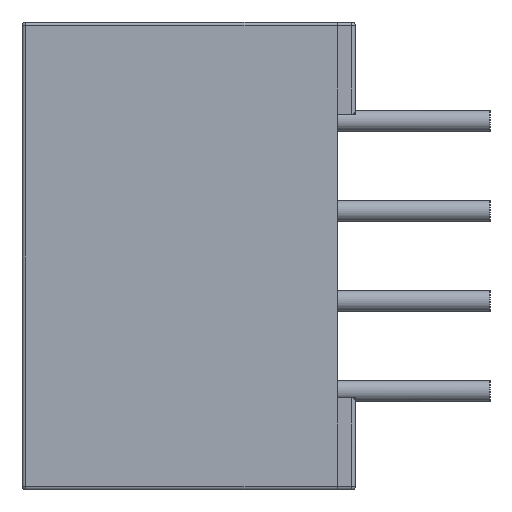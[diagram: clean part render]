
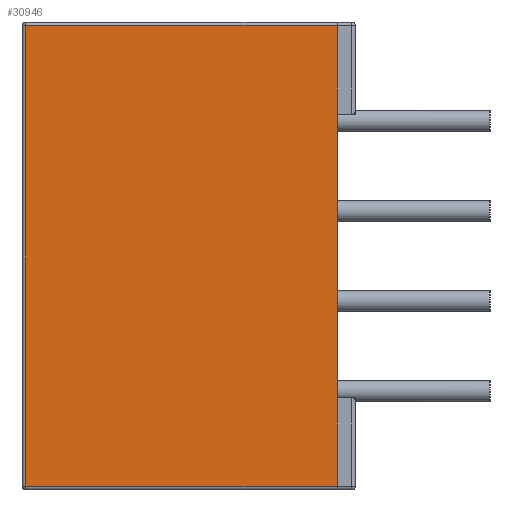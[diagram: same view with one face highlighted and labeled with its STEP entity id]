
A CAD part, left-side view. The second image highlights one B-rep face of the part: STEP entity #30946.
In plain terms, the highlighted planar face has unit normal (-1, 0, 0).
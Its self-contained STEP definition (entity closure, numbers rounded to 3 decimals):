
#19962 = CARTESIAN_POINT ( 'NONE',  ( -14.5, 0., 4. ) ) ;
#19998 = CARTESIAN_POINT ( 'NONE',  ( -14.5, 0., -4. ) ) ;
#19999 = DIRECTION ( 'NONE',  ( 0., 0., 1. ) ) ;
#20000 = VECTOR ( 'NONE', #19999, 1000. ) ;
#20001 = CARTESIAN_POINT ( 'NONE',  ( -14.5, 0., 6.6 ) ) ;
#20002 = LINE ( 'NONE', #20001, #20000 ) ;
#20435 = DIRECTION ( 'NONE',  ( 0., 1., 0. ) ) ;
#20436 = VECTOR ( 'NONE', #20435, 1000. ) ;
#20437 = CARTESIAN_POINT ( 'NONE',  ( -14.5, 0., 6.5 ) ) ;
#20438 = LINE ( 'NONE', #20437, #20436 ) ;
#20439 = CARTESIAN_POINT ( 'NONE',  ( -14.5, 0., 6.5 ) ) ;
#20440 = DIRECTION ( 'NONE',  ( 0., 0., 1. ) ) ;
#20441 = VECTOR ( 'NONE', #20440, 1000. ) ;
#20442 = CARTESIAN_POINT ( 'NONE',  ( -14.5, 0., 6.6 ) ) ;
#20443 = LINE ( 'NONE', #20442, #20441 ) ;
#20464 = DIRECTION ( 'NONE',  ( 0., 0., 1. ) ) ;
#20465 = VECTOR ( 'NONE', #20464, 1000. ) ;
#20466 = CARTESIAN_POINT ( 'NONE',  ( -14.5, 0., 6.6 ) ) ;
#20467 = LINE ( 'NONE', #20466, #20465 ) ;
#20468 = CARTESIAN_POINT ( 'NONE',  ( -14.5, 0., -6.5 ) ) ;
#20469 = DIRECTION ( 'NONE',  ( 0., -1., 0. ) ) ;
#20470 = VECTOR ( 'NONE', #20469, 1000. ) ;
#20471 = CARTESIAN_POINT ( 'NONE',  ( -14.5, 0.005, -6.5 ) ) ;
#20472 = LINE ( 'NONE', #20471, #20470 ) ;
#20473 = CARTESIAN_POINT ( 'NONE',  ( -14.497, 8.79, -6.497 ) ) ;
#20474 = CARTESIAN_POINT ( 'NONE',  ( -14.497, 8.79, 6.497 ) ) ;
#20475 = DIRECTION ( 'NONE',  ( 0., 0., -1. ) ) ;
#20476 = VECTOR ( 'NONE', #20475, 1000. ) ;
#20477 = CARTESIAN_POINT ( 'NONE',  ( -14.497, 8.79, -6.597 ) ) ;
#20478 = LINE ( 'NONE', #20477, #20476 ) ;
#20479 = DIRECTION ( 'NONE',  ( 0., -1., 0. ) ) ;
#20480 = DIRECTION ( 'NONE',  ( -1., 0., 0. ) ) ;
#20481 = CARTESIAN_POINT ( 'NONE',  ( -14.5, 0., 6.6 ) ) ;
#20482 = AXIS2_PLACEMENT_3D ( 'NONE', #20481, #20480, #20479 ) ;
#20484 = PLANE ( 'NONE',  #20482 ) ;
#20485 = FACE_OUTER_BOUND ( 'NONE', #30947, .T. ) ;
#30667 = VERTEX_POINT ( 'NONE', #19962 ) ;
#30712 = EDGE_CURVE ( 'NONE', #30713, #30667, #20002, .T. ) ;
#30713 = VERTEX_POINT ( 'NONE', #19998 ) ;
#30930 = ORIENTED_EDGE ( 'NONE', *, *, #30931, .T. ) ;
#30931 = EDGE_CURVE ( 'NONE', #30667, #30932, #20443, .T. ) ;
#30932 = VERTEX_POINT ( 'NONE', #20439 ) ;
#30933 = ORIENTED_EDGE ( 'NONE', *, *, #30934, .T. ) ;
#30934 = EDGE_CURVE ( 'NONE', #30932, #30950, #20438, .T. ) ;
#30946 = ADVANCED_FACE ( 'NONE', ( #20485 ), #20484, .T. ) ;
#30947 = EDGE_LOOP ( 'NONE', ( #30948, #30952, #30955, #30957, #30930, #30933 ) ) ;
#30948 = ORIENTED_EDGE ( 'NONE', *, *, #30949, .T. ) ;
#30949 = EDGE_CURVE ( 'NONE', #30950, #30951, #20478, .T. ) ;
#30950 = VERTEX_POINT ( 'NONE', #20474 ) ;
#30951 = VERTEX_POINT ( 'NONE', #20473 ) ;
#30952 = ORIENTED_EDGE ( 'NONE', *, *, #30953, .T. ) ;
#30953 = EDGE_CURVE ( 'NONE', #30951, #30954, #20472, .T. ) ;
#30954 = VERTEX_POINT ( 'NONE', #20468 ) ;
#30955 = ORIENTED_EDGE ( 'NONE', *, *, #30956, .T. ) ;
#30956 = EDGE_CURVE ( 'NONE', #30954, #30713, #20467, .T. ) ;
#30957 = ORIENTED_EDGE ( 'NONE', *, *, #30712, .T. ) ;
